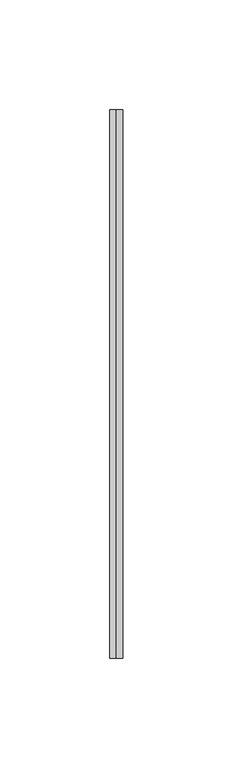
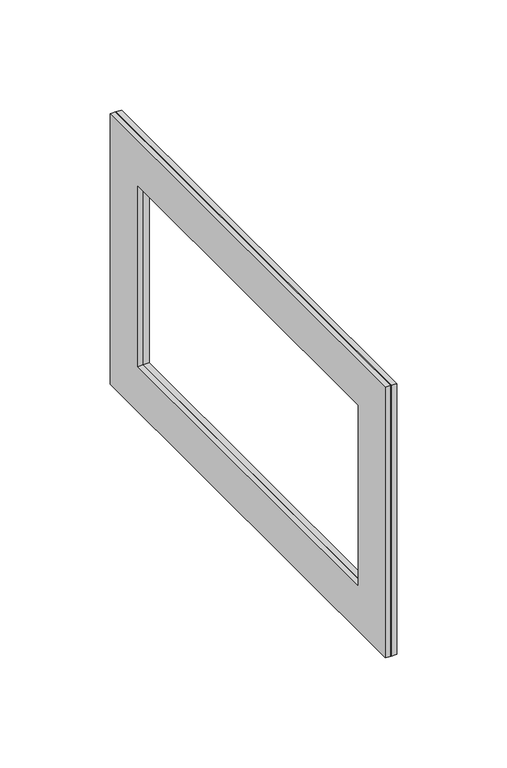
"""IFC4 building model written with IfcOpenShell, lengths in millimetres: duct fitting geometry, BL_ФланецВоздуховдов-Двойной_Прямоугольный : BL_ФланецВоздуховдов-Двойной_Прямоугольный."""

import ifcopenshell
import ifcopenshell.guid

model = None  # the IFC model being written
_history = None  # IfcOwnerHistory: only IFC2X3 demands one
_inside = {}  # id of a spatial element -> (the spatial element, [elements in it])
_under = {}  # id of a project, library or spatial element -> (it, [spatial elements below it])
_declared = {}  # id of a project -> (the project, [libraries it declares])
_typed = {}  # id of a type object -> (the type object, [elements of that type])
_made_of = {}  # id of a material, layer set ... -> (it, [elements and type objects made of it])


def new_model(schema):
    """Start an empty IFC model of exactly this schema.

    Asked for "IFC4X3", IfcOpenShell would pick the latest addendum, in which some entities
    have other attributes; the version numbers below select the first issue.
    IFC2X3 requires an IfcOwnerHistory on every rooted entity: one is made here for all.
    """
    global model, _history
    if schema == "IFC4X3":
        model = ifcopenshell.file(schema_version=(4, 3, 0, 0))
    else:
        model = ifcopenshell.file(schema=schema)
    _inside.clear()
    _under.clear()
    _declared.clear()
    _typed.clear()
    _made_of.clear()
    _history = None
    if model.schema == "IFC2X3":
        org = make("IfcOrganization", Name="unknown")
        user = make(
            "IfcPersonAndOrganization",
            ThePerson=make("IfcPerson", FamilyName="unknown"),
            TheOrganization=org,
        )
        app = make(
            "IfcApplication",
            ApplicationDeveloper=org,
            Version="unknown",
            ApplicationFullName="unknown",
            ApplicationIdentifier="unknown",
        )
        _history = make(
            "IfcOwnerHistory",
            OwningUser=user,
            OwningApplication=app,
            ChangeAction="ADDED",
            CreationDate=0,
        )
    return model


def make(cls, **values):
    """One entity of the class cls with the attributes given. An attribute that is None is left unset."""
    return model.create_entity(
        cls, **{name: value for name, value in values.items() if value is not None}
    )


def rooted(cls, **values):
    """An entity with a GlobalId (a new one), such as an element, a storey or a relation."""
    return make(cls, GlobalId=ifcopenshell.guid.new(), OwnerHistory=_history, **values)


def si_unit(unit_type, name, prefix=None):
    """IfcSIUnit, for example si_unit("LENGTHUNIT", "METRE", prefix="MILLI")."""
    return make("IfcSIUnit", UnitType=unit_type, Prefix=prefix, Name=name)


def assignment(units):
    """IfcUnitAssignment: the units of a project."""
    return None if units is None else make("IfcUnitAssignment", Units=units)


def point(xyz):
    """IfcCartesianPoint."""
    return None if xyz is None else make("IfcCartesianPoint", Coordinates=xyz)


def direction(xyz):
    """IfcDirection."""
    return None if xyz is None else make("IfcDirection", DirectionRatios=xyz)


def frame(location, z_axis=None, x_axis=None):
    """IfcAxis2Placement3D, a coordinate frame: its origin and axes. An axis left out is left unset."""
    return make(
        "IfcAxis2Placement3D",
        Location=point(location),
        Axis=direction(z_axis),
        RefDirection=direction(x_axis),
    )


def origin():
    """The frame at (0, 0, 0) with its axes left unset."""
    return frame((0.0, 0.0, 0.0))


def place(relative_to, where):
    """IfcLocalPlacement: puts the frame where relative to a parent placement (None: the world)."""
    return make(
        "IfcLocalPlacement", PlacementRelTo=relative_to, RelativePlacement=where
    )


def context(
    kind, dimensions, precision=None, world=None, true_north=None, identifier=None
):
    """IfcGeometricRepresentationContext, for example the 3D "Model" context."""
    return make(
        "IfcGeometricRepresentationContext",
        ContextIdentifier=identifier,
        ContextType=kind,
        CoordinateSpaceDimension=dimensions,
        Precision=precision,
        WorldCoordinateSystem=world,
        TrueNorth=true_north,
    )


def project(units=None, contexts=None):
    """IfcProject with its units and contexts."""
    return rooted(
        "IfcProject",
        Name="project",
        RepresentationContexts=contexts,
        UnitsInContext=assignment(units),
    )


def spatial(cls, under=None, at=None, **own):
    """A site, building, storey or space (cls), placed at a placement, below another one or the project."""
    s = rooted(cls, ObjectPlacement=at, **own)
    if under is not None:
        _under.setdefault(under.id(), (under, []))[1].append(s)
    return s


def polyline(points):
    """IfcPolyline through the points."""
    return make("IfcPolyline", Points=[point(p) for p in points])


def outline(outer, holes=None, kind="AREA"):
    """IfcArbitraryClosedProfileDef: a profile drawn as a closed curve; with holes, ...WithVoids."""
    if holes is None:
        return make("IfcArbitraryClosedProfileDef", ProfileType=kind, OuterCurve=outer)
    return make(
        "IfcArbitraryProfileDefWithVoids",
        ProfileType=kind,
        OuterCurve=outer,
        InnerCurves=holes,
    )


def extrude(swept, where, along, depth):
    """IfcExtrudedAreaSolid: the profile swept, set in the frame where, extruded along a direction by depth."""
    return make(
        "IfcExtrudedAreaSolid",
        SweptArea=swept,
        Position=where,
        ExtrudedDirection=direction(along),
        Depth=depth,
    )


def shape(context_of_items, identifier, shape_type, items):
    """IfcShapeRepresentation: the items that make up one representation, for example the "Body"."""
    return make(
        "IfcShapeRepresentation",
        ContextOfItems=context_of_items,
        RepresentationIdentifier=identifier,
        RepresentationType=shape_type,
        Items=items,
    )


def source(mapping_origin, context_of_items, identifier, shape_type, items):
    """IfcRepresentationMap: a shape defined once, which mapped items show again and again."""
    return make(
        "IfcRepresentationMap",
        MappingOrigin=mapping_origin,
        MappedRepresentation=shape(context_of_items, identifier, shape_type, items),
    )


def transform(
    local_origin,
    x_axis=None,
    y_axis=None,
    z_axis=None,
    scale=None,
    scale2=None,
    scale3=None,
    uniform=True,
):
    """IfcCartesianTransformationOperator3D, or its non-uniform kind. x_axis, y_axis, z_axis: its Axis1, 2, 3."""
    if uniform:
        return make(
            "IfcCartesianTransformationOperator3D",
            Axis1=direction(x_axis),
            Axis2=direction(y_axis),
            LocalOrigin=point(local_origin),
            Scale=scale,
            Axis3=direction(z_axis),
        )
    return make(
        "IfcCartesianTransformationOperator3DnonUniform",
        Axis1=direction(x_axis),
        Axis2=direction(y_axis),
        LocalOrigin=point(local_origin),
        Scale=scale,
        Axis3=direction(z_axis),
        Scale2=scale2,
        Scale3=scale3,
    )


def mapped(mapping_source, mapping_target):
    """IfcMappedItem: shows the shape of a source again, moved by a transform."""
    return make(
        "IfcMappedItem", MappingSource=mapping_source, MappingTarget=mapping_target
    )


def made_of(thing, what):
    """Note that an element or type object is made of a material, layer set ...; save() writes the relation."""
    if what is not None:
        _made_of.setdefault(what.id(), (what, []))[1].append(thing)
    return thing


def element(
    cls,
    number,
    at=None,
    inside=None,
    cuts=None,
    type_object=None,
    material=None,
    context=None,
    identifier="Body",
    shape_type=None,
    held_by="IfcProductDefinitionShape",
    body=None,
    shapes=None,
    **own,
):
    """One element of the class cls, such as IfcWall. Its Tag is "e" and its number.

    at: its placement. inside: the storey or other place that contains it. cuts: it is an
    opening in that element (IfcRelVoidsElement). A single representation is given by context,
    identifier, shape_type and body (its items); several are given by shapes. held_by: the class
    of the entity that holds the representations. save() writes the other relations.
    """
    e = rooted(cls, Tag="e%d" % number, ObjectPlacement=at, **own)
    if body is not None:
        shapes = [shape(context, identifier, shape_type, body)]
    if shapes is not None:
        e.Representation = make(held_by, Representations=shapes)
    if inside is not None:
        _inside.setdefault(inside.id(), (inside, []))[1].append(e)
    if cuts is not None:
        rooted(
            "IfcRelVoidsElement", RelatingBuildingElement=cuts, RelatedOpeningElement=e
        )
    if type_object is not None:
        _typed.setdefault(type_object.id(), (type_object, []))[1].append(e)
    return made_of(e, material)


def aggregate(whole, parts):
    """IfcRelAggregates: a whole, such as a stair, and the parts it consists of."""
    return rooted("IfcRelAggregates", RelatingObject=whole, RelatedObjects=parts)


def save(model, path):
    """Write the relations noted so far, then the file.

    IfcRelAggregates (storeys below a building ...), IfcRelContainedInSpatialStructure (elements
    in a storey), IfcRelDefinesByType, IfcRelAssociatesMaterial and IfcRelDeclares: one each for
    every whole, place, type object, material and project.
    """
    for whole, parts in _under.values():
        aggregate(whole, parts)
    for where, things in _inside.values():
        rooted(
            "IfcRelContainedInSpatialStructure",
            RelatedElements=things,
            RelatingStructure=where,
        )
    for kind, things in _typed.values():
        rooted("IfcRelDefinesByType", RelatedObjects=things, RelatingType=kind)
    for what, things in _made_of.values():
        rooted("IfcRelAssociatesMaterial", RelatedObjects=things, RelatingMaterial=what)
    for by, libraries in _declared.values():
        rooted("IfcRelDeclares", RelatingContext=by, RelatedDefinitions=libraries)
    model.write(path)


def duct_fitting_0a7cc2d9(model_context):
    return source(origin(), model_context, "Body", "SweptSolid", [
        extrude(outline(polyline([(-170.6742229, 75.0), (79.3257771, 75.0), (79.3257771, -75.0), (-170.6742229, -75.0), (-170.6742229, 75.0)]), holes=[polyline([(-145.6742229, 50.0), (-145.6742229, -50.0), (54.3257771, -50.0), (54.3257771, 50.0), (-145.6742229, 50.0)])]), frame((0.0, 0.0, 0.0), z_axis=(1.0, 0.0, 0.0), x_axis=(0.0, 1.0, 0.0)), (0.0, 0.0, 1.0), 3.0),
        extrude(outline(polyline([(-170.6742229, 75.0), (79.3257771, 75.0), (79.3257771, -75.0), (-170.6742229, -75.0), (-170.6742229, 75.0)]), holes=[polyline([(54.3257771, 50.0), (-145.6742229, 50.0), (-145.6742229, -50.0), (54.3257771, -50.0), (54.3257771, 50.0)])]), frame((-3.0, 0.0, 0.0), z_axis=(1.0, 0.0, 0.0), x_axis=(0.0, 1.0, 0.0)), (0.0, 0.0, 1.0), 3.0),
    ])


if __name__ == "__main__":
    model = new_model("IFC4")
    model_context = context("Model", 3, world=origin())
    ifc_project = project(units=[si_unit("LENGTHUNIT", "METRE", prefix="MILLI")], contexts=[model_context])
    site = spatial("IfcSite", under=ifc_project)
    building = spatial("IfcBuilding", under=site)
    placement = place(None, origin())
    duct_fitting_shape = duct_fitting_0a7cc2d9(model_context)
    element("IfcDuctFitting", 1, ObjectType="BL_ФланецВоздуховдов-Двойной_Прямоугольный : BL_ФланецВоздуховдов-Двойной_Прямоугольный", at=placement, inside=building, context=model_context, shape_type="MappedRepresentation", body=[
        mapped(duct_fitting_shape, transform((0.0, 0.0, 0.0), x_axis=(1.0, 0.0, 0.0), y_axis=(0.0, 1.0, 0.0), z_axis=(0.0, 0.0, 1.0))),
    ])
    save(model, "model.ifc")
